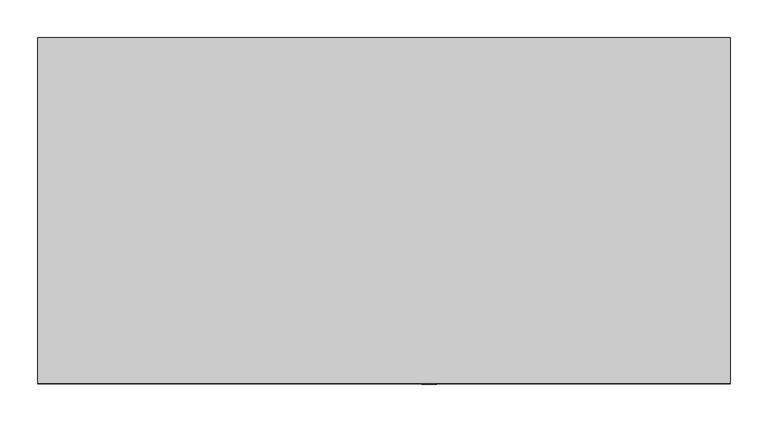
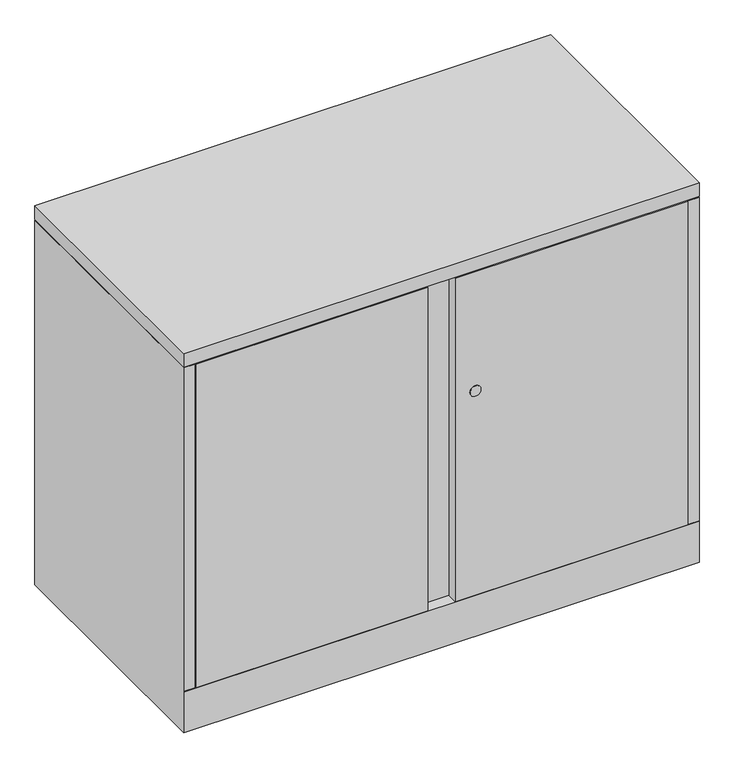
"""IFC4 building model written with IfcOpenShell, lengths in millimetres: furniture geometry, Steelcase - Universal Storage - Cabinet - Storage - 28H - Flush Steel : 18D x 36W."""

from ifc_helpers import new_model, si_unit, point, frame, frame_2d, origin, place, context, project, spatial, polyline, circle_curve, trimmed, segment, composite_curve, outline, extrude, faceted_brep, source, transform, mapped, element, save


def furniture_8649820d(model_context):
    return source(origin(), model_context, "Body", "SolidModel", [
        extrude(outline(polyline([(914.4, 0.0), (914.4, -457.2), (0.0, -457.2), (0.0, 0.0), (914.4, 0.0)])), frame((0.0, 0.0, 685.7999516), z_axis=(0.0, 0.0, 1.0), x_axis=(1.0, 0.0, 0.0)), (0.0, 0.0, 1.0), 25.4),
        extrude(outline(composite_curve([segment(trimmed(circle_curve(frame_2d((460.3889832, 517.0109835)), 9.7167829), [point((460.3889832, 526.7277664))], [point((460.3889832, 507.2942006))], False, "CARTESIAN"), True, "CONTINUOUS"), segment(trimmed(circle_curve(frame_2d((460.3889832, 517.0109835)), 9.7167829), [point((460.3889832, 507.2942006))], [point((460.3889832, 526.7277664))], False, "CARTESIAN"), True, "CONTINUOUS")], self_intersect=False)), frame((0.0, -457.8695275, 0.0), z_axis=(0.0, 1.0, 0.0), x_axis=(0.0, 0.0, 1.0)), (0.0, 0.0, 1.0), 0.6695275),
        extrude(outline(polyline([(20.8280006, -431.673866), (893.572, -431.673866), (893.572, -457.2), (481.33, -457.2), (481.33, -438.0238781), (433.07, -438.0238781), (433.07, -457.2), (20.8280006, -457.2), (20.8280006, -431.673866)])), frame((0.0, 0.0, 77.724), z_axis=(0.0, 0.0, 1.0), x_axis=(1.0, 0.0, 0.0)), (0.0, 0.0, 1.0), 606.552),
        faceted_brep([(914.4, 0.0, 0.0), (914.4, -457.2, 0.0), (0.0, -457.2, 0.0), (0.0, 0.0, 0.0), (0.0, 0.0, 684.276), (914.4, 0.0, 684.276), (0.0, -457.2, 76.2), (0.0, -457.2, 77.724), (0.0, -457.2, 684.276), (914.4, -457.2, 76.2), (914.4, -457.2, 684.276), (914.4, -457.2, 77.724), (889.0000242, -25.4000008, 684.276), (889.0000242, -430.1498674, 684.276), (893.572, -430.1498674, 684.276), (893.572, -431.6738781, 684.276), (895.096, -431.6738781, 684.276), (895.096, -457.2, 684.276), (19.304, -457.2, 684.276), (19.304, -431.673866, 684.276), (20.8280006, -431.673866, 684.276), (20.8280006, -430.1498674, 684.276), (25.4000008, -430.1498674, 684.276), (25.4000008, -25.4000008, 684.276), (19.304, -457.2, 77.724), (19.304, -437.896, 77.724), (895.096, -457.2, 77.724), (895.096, -437.7698418, 77.724), (889.0000242, -25.4000008, 77.724), (889.0000242, -430.1498674, 77.724), (893.572, -430.1498674, 77.724), (893.572, -431.6738781, 77.724), (895.096, -431.6738781, 77.724), (19.304, -431.673866, 77.724), (20.8280006, -431.673866, 77.724), (20.8280006, -430.1498674, 77.724), (25.4000008, -430.1498674, 77.724), (25.4000008, -25.4000008, 77.724), (25.526134, -431.673866, 77.724), (889.0000242, -431.673866, 77.724)], [[[0, 1, 2, 3]], [[0, 3, 4, 5]], [[4, 3, 2, 6, 7, 8]], [[2, 1, 9, 6]], [[1, 0, 5, 10, 11, 9]], [[12, 13, 14, 15, 16, 17, 10, 5, 4, 8, 18, 19, 20, 21, 22, 23]], [[24, 7, 25]], [[11, 26, 27]], [[13, 12, 28, 29]], [[14, 13, 29, 30]], [[15, 14, 30, 31]], [[16, 15, 31, 32]], [[17, 16, 32, 27, 26]], [[10, 17, 26, 11]], [[18, 8, 7, 24]], [[19, 18, 24, 25, 33]], [[20, 19, 33, 34]], [[21, 20, 34, 35]], [[22, 21, 35, 36]], [[23, 22, 36, 37]], [[12, 23, 37, 28]], [[38, 39, 27, 32, 31, 30, 29, 28, 37, 36, 35, 34, 33, 25]], [[7, 6, 38, 25]], [[39, 38, 6, 9]], [[39, 9, 11, 27]]]),
    ])


if __name__ == "__main__":
    model = new_model("IFC4")
    model_context = context("Model", 3, world=origin())
    ifc_project = project(units=[si_unit("LENGTHUNIT", "METRE", prefix="MILLI")], contexts=[model_context])
    site = spatial("IfcSite", under=ifc_project)
    building = spatial("IfcBuilding", under=site)
    placement = place(None, origin())
    furniture_shape = furniture_8649820d(model_context)
    element("IfcFurniture", 1, ObjectType="Steelcase - Universal Storage - Cabinet - Storage - 28H - Flush Steel : 18D x 36W", at=placement, inside=building, context=model_context, shape_type="MappedRepresentation", body=[
        mapped(furniture_shape, transform((0.0, 0.0, 0.0), x_axis=(1.0, 0.0, 0.0), y_axis=(0.0, 1.0, 0.0), z_axis=(0.0, 0.0, 1.0))),
    ])
    save(model, "model.ifc")
